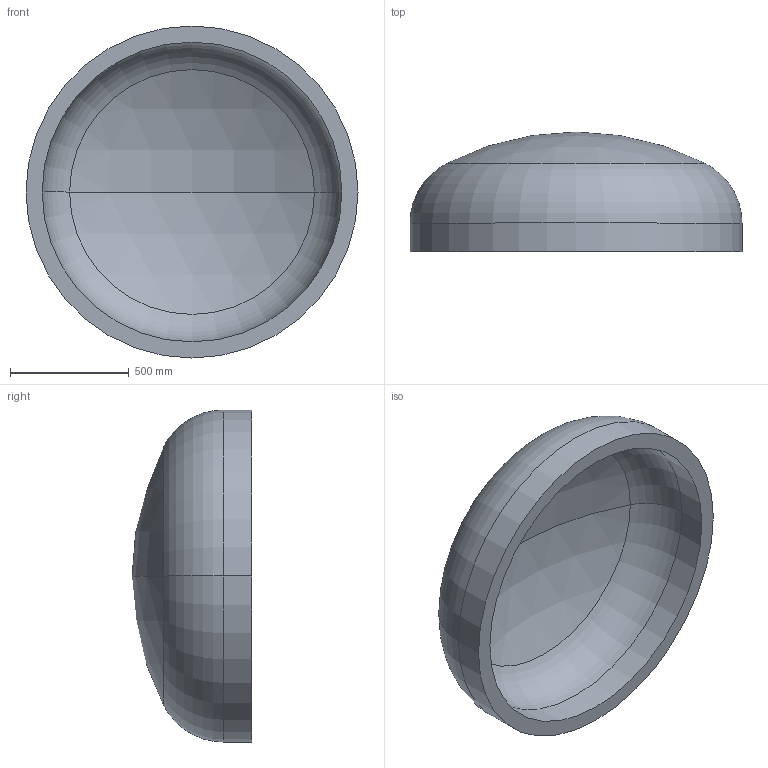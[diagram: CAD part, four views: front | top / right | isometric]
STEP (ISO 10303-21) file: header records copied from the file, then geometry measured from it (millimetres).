
FILE_DESCRIPTION (( 'STEP AP203' ), '1' );
FILE_NAME ('DIN 28013 Korbbogenform_-_Boden DIN 28013 - 1400 x 120 - I - s=68.step', '2016-07-01T10:23:49', ( '' ), ( '' ), 'SwSTEP 2.0', 'SolidWorks 2013', '' );
FILE_SCHEMA (( 'CONFIG_CONTROL_DESIGN' ));
Length unit declared in the file: millimetre
Products named in the file (1): DIN 28013 Korbbogenform_-_Boden DIN 28013 - 1400 x 120 - I - s=68
Bounding box: 1400 x 504.8 x 1400 mm (x, y, z)
Volume: 170263862.5 mm3; surface area: 5301996.8 mm2
Topology: 1 solids, 1 shells, 13 faces, 24 edges, 14 vertices
Faces by surface type: torus 4, cylinder 4, sphere 4, plane 1
Entity records: 407 total; most frequent: DIRECTION 72, CARTESIAN_POINT 52, ORIENTED_EDGE 48, AXIS2_PLACEMENT_3D 34, EDGE_CURVE 24, CIRCLE 20, EDGE_LOOP 14, VERTEX_POINT 14
